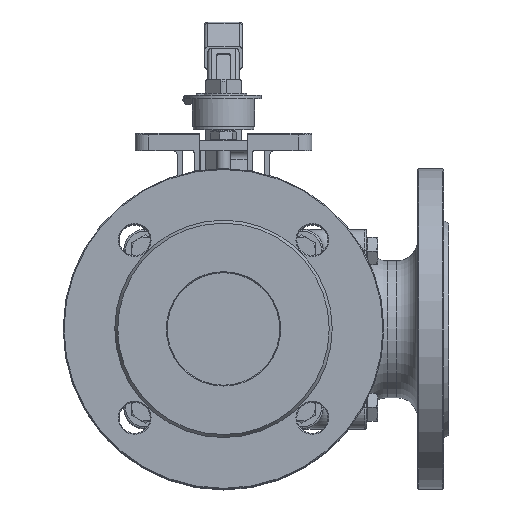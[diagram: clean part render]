
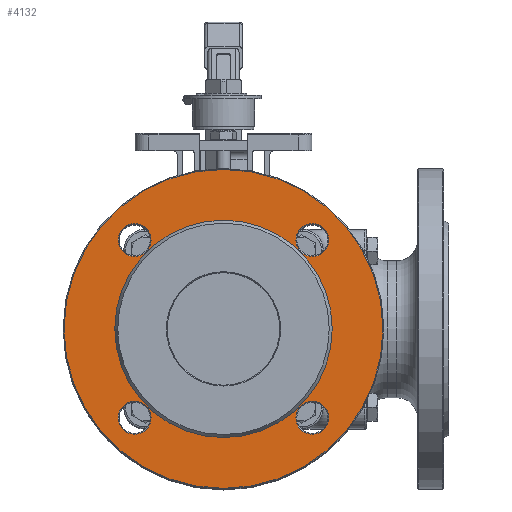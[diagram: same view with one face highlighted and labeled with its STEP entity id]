
A CAD part, top view. The second image highlights one B-rep face of the part: STEP entity #4132.
In plain terms, the highlighted planar face has unit normal (0, 0, 1).
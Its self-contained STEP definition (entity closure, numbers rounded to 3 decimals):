
#4132=ADVANCED_FACE('',(#12047,#12049,#12051,#12053,#12055,#12057),#12059,.T.);
#12047=FACE_BOUND('',#12048,.T.);
#12048=EDGE_LOOP('',(#17927));
#12049=FACE_BOUND('',#12050,.T.);
#12050=EDGE_LOOP('',(#17928));
#12051=FACE_BOUND('',#12052,.T.);
#12052=EDGE_LOOP('',(#17929));
#12053=FACE_BOUND('',#12054,.T.);
#12054=EDGE_LOOP('',(#17930));
#12055=FACE_BOUND('',#12056,.T.);
#12056=EDGE_LOOP('',(#17931));
#12057=FACE_BOUND('',#12058,.T.);
#12058=EDGE_LOOP('',(#17932));
#12059=PLANE('',#12060);
#12060=AXIS2_PLACEMENT_3D('',#12061,#12062,#12063);
#12061=CARTESIAN_POINT('',(0.,0.,127.));
#12062=DIRECTION('',(0.,0.,1.));
#12063=DIRECTION('',(1.,0.,0.));
#17927=ORIENTED_EDGE('',*,*,#20762,.F.);
#17928=ORIENTED_EDGE('',*,*,#20667,.F.);
#17929=ORIENTED_EDGE('',*,*,#20665,.F.);
#17930=ORIENTED_EDGE('',*,*,#20763,.F.);
#17931=ORIENTED_EDGE('',*,*,#20666,.F.);
#17932=ORIENTED_EDGE('',*,*,#20664,.F.);
#20664=EDGE_CURVE('',#23908,#23908,#23909,.T.);
#20665=EDGE_CURVE('',#23910,#23910,#23911,.T.);
#20666=EDGE_CURVE('',#23912,#23912,#23913,.T.);
#20667=EDGE_CURVE('',#23914,#23914,#23915,.T.);
#20762=EDGE_CURVE('',#24064,#24064,#24065,.T.);
#20763=EDGE_CURVE('',#24066,#24066,#24067,.T.);
#23908=VERTEX_POINT('',#40321);
#23909=CIRCLE('',#40322,9.5);
#23910=VERTEX_POINT('',#40326);
#23911=CIRCLE('',#40327,9.5);
#23912=VERTEX_POINT('',#40331);
#23913=CIRCLE('',#40332,9.5);
#23914=VERTEX_POINT('',#40336);
#23915=CIRCLE('',#40337,9.5);
#24064=VERTEX_POINT('',#40990);
#24065=CIRCLE('',#40991,92.);
#24066=VERTEX_POINT('',#40995);
#24067=CIRCLE('',#40996,62.732);
#40321=CARTESIAN_POINT('',(-41.765,-51.265,127.));
#40322=AXIS2_PLACEMENT_3D('',#40323,#40324,#40325);
#40323=CARTESIAN_POINT('',(-51.265,-51.265,127.));
#40324=DIRECTION('',(0.,0.,1.));
#40325=DIRECTION('',(1.,0.,0.));
#40326=CARTESIAN_POINT('',(-41.765,51.265,127.));
#40327=AXIS2_PLACEMENT_3D('',#40328,#40329,#40330);
#40328=CARTESIAN_POINT('',(-51.265,51.265,127.));
#40329=DIRECTION('',(0.,0.,1.));
#40330=DIRECTION('',(1.,0.,0.));
#40331=CARTESIAN_POINT('',(60.765,51.265,127.));
#40332=AXIS2_PLACEMENT_3D('',#40333,#40334,#40335);
#40333=CARTESIAN_POINT('',(51.265,51.265,127.));
#40334=DIRECTION('',(0.,0.,1.));
#40335=DIRECTION('',(1.,0.,0.));
#40336=CARTESIAN_POINT('',(60.765,-51.265,127.));
#40337=AXIS2_PLACEMENT_3D('',#40338,#40339,#40340);
#40338=CARTESIAN_POINT('',(51.265,-51.265,127.));
#40339=DIRECTION('',(0.,0.,1.));
#40340=DIRECTION('',(1.,0.,0.));
#40990=CARTESIAN_POINT('',(92.,0.,127.));
#40991=AXIS2_PLACEMENT_3D('',#40992,#40993,#40994);
#40992=CARTESIAN_POINT('',(0.,0.,127.));
#40993=DIRECTION('',(0.,0.,-1.));
#40994=DIRECTION('',(1.,0.,0.));
#40995=CARTESIAN_POINT('',(62.732,0.,127.));
#40996=AXIS2_PLACEMENT_3D('',#40997,#40998,#40999);
#40997=CARTESIAN_POINT('',(0.,0.,127.));
#40998=DIRECTION('',(0.,0.,1.));
#40999=DIRECTION('',(1.,0.,0.));
